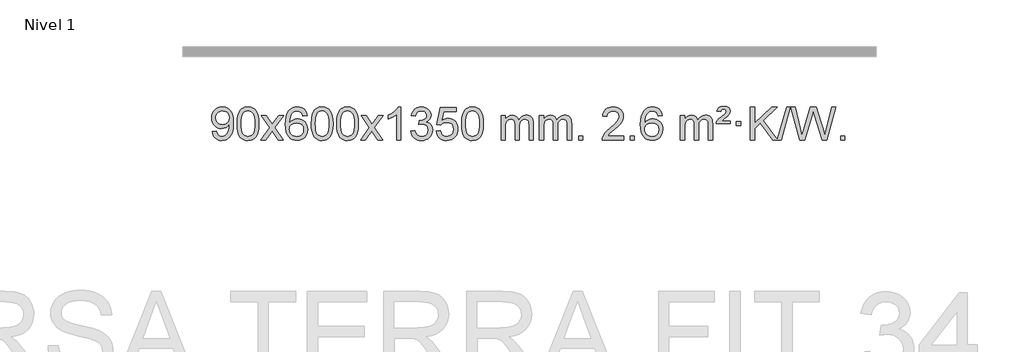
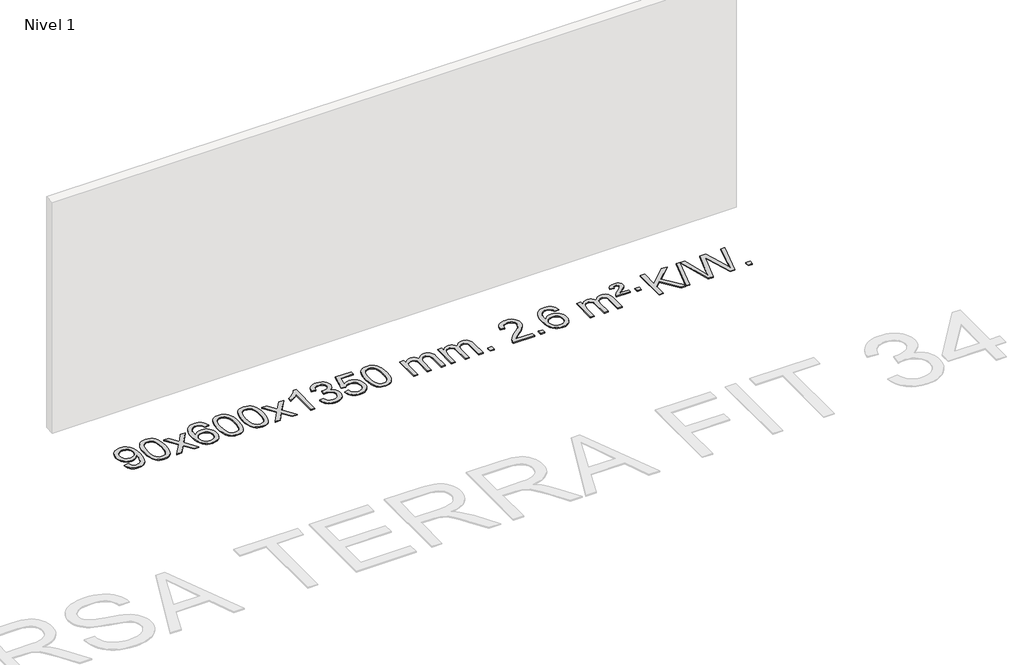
# One storey, part 6 of 10: 1 proxy.
"""IFC4 building model written with IfcOpenShell, lengths in millimetres."""

import ifcopenshell
import ifcopenshell.guid

model = None  # the IFC model being written
_history = None  # IfcOwnerHistory: only IFC2X3 demands one
_inside = {}  # id of a spatial element -> (the spatial element, [elements in it])
_under = {}  # id of a project, library or spatial element -> (it, [spatial elements below it])
_declared = {}  # id of a project -> (the project, [libraries it declares])
_typed = {}  # id of a type object -> (the type object, [elements of that type])
_made_of = {}  # id of a material, layer set ... -> (it, [elements and type objects made of it])


def new_model(schema):
    """Start an empty IFC model of exactly this schema.

    Asked for "IFC4X3", IfcOpenShell would pick the latest addendum, in which some entities
    have other attributes; the version numbers below select the first issue.
    IFC2X3 requires an IfcOwnerHistory on every rooted entity: one is made here for all.
    """
    global model, _history
    if schema == "IFC4X3":
        model = ifcopenshell.file(schema_version=(4, 3, 0, 0))
    else:
        model = ifcopenshell.file(schema=schema)
    _inside.clear()
    _under.clear()
    _declared.clear()
    _typed.clear()
    _made_of.clear()
    _history = None
    if model.schema == "IFC2X3":
        org = make("IfcOrganization", Name="unknown")
        user = make(
            "IfcPersonAndOrganization",
            ThePerson=make("IfcPerson", FamilyName="unknown"),
            TheOrganization=org,
        )
        app = make(
            "IfcApplication",
            ApplicationDeveloper=org,
            Version="unknown",
            ApplicationFullName="unknown",
            ApplicationIdentifier="unknown",
        )
        _history = make(
            "IfcOwnerHistory",
            OwningUser=user,
            OwningApplication=app,
            ChangeAction="ADDED",
            CreationDate=0,
        )
    return model


def make(cls, **values):
    """One entity of the class cls with the attributes given. An attribute that is None is left unset."""
    return model.create_entity(
        cls, **{name: value for name, value in values.items() if value is not None}
    )


def rooted(cls, **values):
    """An entity with a GlobalId (a new one), such as an element, a storey or a relation."""
    return make(cls, GlobalId=ifcopenshell.guid.new(), OwnerHistory=_history, **values)


def si_unit(unit_type, name, prefix=None):
    """IfcSIUnit, for example si_unit("LENGTHUNIT", "METRE", prefix="MILLI")."""
    return make("IfcSIUnit", UnitType=unit_type, Prefix=prefix, Name=name)


def assignment(units):
    """IfcUnitAssignment: the units of a project."""
    return None if units is None else make("IfcUnitAssignment", Units=units)


def point(xyz):
    """IfcCartesianPoint."""
    return None if xyz is None else make("IfcCartesianPoint", Coordinates=xyz)


def direction(xyz):
    """IfcDirection."""
    return None if xyz is None else make("IfcDirection", DirectionRatios=xyz)


def frame(location, z_axis=None, x_axis=None):
    """IfcAxis2Placement3D, a coordinate frame: its origin and axes. An axis left out is left unset."""
    return make(
        "IfcAxis2Placement3D",
        Location=point(location),
        Axis=direction(z_axis),
        RefDirection=direction(x_axis),
    )


def origin():
    """The frame at (0, 0, 0) with its axes left unset."""
    return frame((0.0, 0.0, 0.0))


def origin_with_axes():
    """The frame at (0, 0, 0) with the z axis (0, 0, 1) and the x axis (1, 0, 0) written out."""
    return frame((0.0, 0.0, 0.0), z_axis=(0.0, 0.0, 1.0), x_axis=(1.0, 0.0, 0.0))


def place(relative_to, where):
    """IfcLocalPlacement: puts the frame where relative to a parent placement (None: the world)."""
    return make(
        "IfcLocalPlacement", PlacementRelTo=relative_to, RelativePlacement=where
    )


def context(
    kind, dimensions, precision=None, world=None, true_north=None, identifier=None
):
    """IfcGeometricRepresentationContext, for example the 3D "Model" context."""
    return make(
        "IfcGeometricRepresentationContext",
        ContextIdentifier=identifier,
        ContextType=kind,
        CoordinateSpaceDimension=dimensions,
        Precision=precision,
        WorldCoordinateSystem=world,
        TrueNorth=true_north,
    )


def project(units=None, contexts=None):
    """IfcProject with its units and contexts."""
    return rooted(
        "IfcProject",
        Name="project",
        RepresentationContexts=contexts,
        UnitsInContext=assignment(units),
    )


def spatial(cls, under=None, at=None, **own):
    """A site, building, storey or space (cls), placed at a placement, below another one or the project."""
    s = rooted(cls, ObjectPlacement=at, **own)
    if under is not None:
        _under.setdefault(under.id(), (under, []))[1].append(s)
    return s


def polyline(points):
    """IfcPolyline through the points."""
    return make("IfcPolyline", Points=[point(p) for p in points])


def outline(outer, holes=None, kind="AREA"):
    """IfcArbitraryClosedProfileDef: a profile drawn as a closed curve; with holes, ...WithVoids."""
    if holes is None:
        return make("IfcArbitraryClosedProfileDef", ProfileType=kind, OuterCurve=outer)
    return make(
        "IfcArbitraryProfileDefWithVoids",
        ProfileType=kind,
        OuterCurve=outer,
        InnerCurves=holes,
    )


def extrude(swept, where, along, depth):
    """IfcExtrudedAreaSolid: the profile swept, set in the frame where, extruded along a direction by depth."""
    return make(
        "IfcExtrudedAreaSolid",
        SweptArea=swept,
        Position=where,
        ExtrudedDirection=direction(along),
        Depth=depth,
    )


def shape(context_of_items, identifier, shape_type, items):
    """IfcShapeRepresentation: the items that make up one representation, for example the "Body"."""
    return make(
        "IfcShapeRepresentation",
        ContextOfItems=context_of_items,
        RepresentationIdentifier=identifier,
        RepresentationType=shape_type,
        Items=items,
    )


def made_of(thing, what):
    """Note that an element or type object is made of a material, layer set ...; save() writes the relation."""
    if what is not None:
        _made_of.setdefault(what.id(), (what, []))[1].append(thing)
    return thing


def element(
    cls,
    number,
    at=None,
    inside=None,
    cuts=None,
    type_object=None,
    material=None,
    context=None,
    identifier="Body",
    shape_type=None,
    held_by="IfcProductDefinitionShape",
    body=None,
    shapes=None,
    **own,
):
    """One element of the class cls, such as IfcWall. Its Tag is "e" and its number.

    at: its placement. inside: the storey or other place that contains it. cuts: it is an
    opening in that element (IfcRelVoidsElement). A single representation is given by context,
    identifier, shape_type and body (its items); several are given by shapes. held_by: the class
    of the entity that holds the representations. save() writes the other relations.
    """
    e = rooted(cls, Tag="e%d" % number, ObjectPlacement=at, **own)
    if body is not None:
        shapes = [shape(context, identifier, shape_type, body)]
    if shapes is not None:
        e.Representation = make(held_by, Representations=shapes)
    if inside is not None:
        _inside.setdefault(inside.id(), (inside, []))[1].append(e)
    if cuts is not None:
        rooted(
            "IfcRelVoidsElement", RelatingBuildingElement=cuts, RelatedOpeningElement=e
        )
    if type_object is not None:
        _typed.setdefault(type_object.id(), (type_object, []))[1].append(e)
    return made_of(e, material)


def aggregate(whole, parts):
    """IfcRelAggregates: a whole, such as a stair, and the parts it consists of."""
    return rooted("IfcRelAggregates", RelatingObject=whole, RelatedObjects=parts)


def save(model, path):
    """Write the relations noted so far, then the file.

    IfcRelAggregates (storeys below a building ...), IfcRelContainedInSpatialStructure (elements
    in a storey), IfcRelDefinesByType, IfcRelAssociatesMaterial and IfcRelDeclares: one each for
    every whole, place, type object, material and project.
    """
    for whole, parts in _under.values():
        aggregate(whole, parts)
    for where, things in _inside.values():
        rooted(
            "IfcRelContainedInSpatialStructure",
            RelatedElements=things,
            RelatingStructure=where,
        )
    for kind, things in _typed.values():
        rooted("IfcRelDefinesByType", RelatedObjects=things, RelatingType=kind)
    for what, things in _made_of.values():
        rooted("IfcRelAssociatesMaterial", RelatedObjects=things, RelatingMaterial=what)
    for by, libraries in _declared.values():
        rooted("IfcRelDeclares", RelatingContext=by, RelatedDefinitions=libraries)
    model.write(path)


model = new_model("IFC4")

# Units and contexts
model_context = context("Model", 3, world=origin())
ifc_project = project(units=[si_unit("LENGTHUNIT", "METRE", prefix="MILLI")], contexts=[model_context])

# Site, building, storey
site = spatial("IfcSite", under=ifc_project)
building = spatial("IfcBuilding", under=site)
storey = spatial("IfcBuildingStorey", under=building, Name="Nivel 1", Elevation=0.0)

# Proxy
placement = place(None, origin())
element("IfcBuildingElementProxy", 1, Name="Texto de modelo 1", ObjectType="Texto de modelo 1", at=placement, inside=storey, context=model_context, shape_type="SweptSolid", body=[
    extrude(outline(polyline([(-14119.8718615, 2901.8394533), (-14069.6437065, 2908.1179727), (-14061.0597933, 2879.607118), (-14047.0802774, 2860.1952114), (-14028.0485156, 2849.048387), (-14004.3078641, 2845.3327788), (-13983.0074966, 2847.7240118), (-13963.6446409, 2854.8977107), (-13947.555935, 2866.0690606), (-13936.0780168, 2880.4532466), (-13919.6459543, 2924.1085767), (-13914.2013008, 2952.5090667), (-13912.3864163, 2982.3810848), (-13912.6807219, 2992.1912713), (-13930.0815402, 2970.9522174), (-13952.8534357, 2954.1277475), (-13979.3532021, 2943.1648641), (-14007.9376331, 2939.5105696), (-14031.7978462, 2941.742387), (-14053.7389415, 2948.4378393), (-14073.7609191, 2959.5969265), (-14091.863779, 2975.2196486), (-14106.8641673, 2994.4905338), (-14117.5787304, 3016.5941103), (-14124.0074683, 3041.5303782), (-14126.1503809, 3069.2993375), (-14123.9032351, 3097.9941331), (-14117.1617975, 3123.7458728), (-14105.9260682, 3146.5545565), (-14090.1960473, 3166.4201842), (-14071.0815119, 3182.5150215), (-14049.6922396, 3194.0113338), (-14026.0282303, 3200.9091213), (-14000.0894839, 3203.2083837), (-13962.6268341, 3197.9599339), (-13928.5241731, 3182.2145845), (-13900.0010558, 3156.7571505), (-13879.2770367, 3122.3724467), (-13866.6586843, 3074.8420929), (-13862.4525668, 3009.9477089), (-13866.6464215, 2941.1415131), (-13879.2279858, 2887.9580393), (-13900.0868949, 2847.9937919), (-13913.5789671, 2832.0675672), (-13929.1127843, 2818.8452752), (-13946.3756469, 2808.4587402), (-13965.0548552, 2801.0397866), (-14006.6623089, 2795.1046237), (-14029.2196066, 2796.8551289), (-14049.6064005, 2802.1066444), (-14067.8226906, 2810.8591702), (-14083.868477, 2823.1127063), (-14097.3390893, 2838.536159), (-14107.8298576, 2856.7984343), (-14115.3407816, 2877.8995324), (-14119.8718615, 2901.8394533)]), holes=[polyline([(-13912.6807219, 3070.4765599), (-13918.1008499, 3104.5179072), (-13924.87601, 3118.5955248), (-13934.3612341, 3130.7111052), (-13946.0905384, 3140.4538467), (-13959.597939, 3147.4129478), (-13991.9470291, 3152.9802287), (-14009.5563139, 3151.4811095), (-14025.4978671, 3146.9837521), (-14039.7716885, 3139.4881565), (-14052.3777782, 3128.9943226), (-14062.678474, 3116.1153871), (-14070.0361139, 3101.4644866), (-14074.4506979, 3085.0416212), (-14075.9222259, 3066.8467909), (-14070.354945, 3035.8098132), (-14063.3958439, 3022.6917544), (-14053.6531024, 3011.1739822), (-14041.5313907, 3001.7960571), (-14027.4353789, 2995.0975391), (-13993.3204552, 2989.7387247), (-13961.2288825, 2995.0975391), (-13935.3913037, 3011.1739822), (-13925.4554241, 3022.9186149), (-13918.3583673, 3036.7172554), (-13912.6807219, 3070.4765599)])]), origin_with_axes(), (0.0, 0.0, 1.0), 10.0),
    extrude(outline(polyline([(-13818.5029311, 2999.0584019), (-13814.8118484, 3063.3764374), (-13803.7386004, 3114.6714502), (-13785.3935515, 3153.7282554), (-13773.5354886, 3168.9616357), (-13759.8870665, 3181.3316677), (-13744.4023002, 3190.902731), (-13727.0352044, 3197.7392047), (-13686.654024, 3203.2083837), (-13655.7028855, 3199.9710222), (-13627.9891085, 3190.2589375), (-13604.8125428, 3174.4522744), (-13587.4730381, 3152.9311777), (-13574.3764391, 3125.8795883), (-13563.9285904, 3093.4814473), (-13557.0859853, 3052.3399775), (-13554.805117, 2999.0584019), (-13558.4594114, 2935.1082484), (-13569.4222949, 2883.9358628), (-13587.6569791, 2844.8422695), (-13599.487451, 2829.562904), (-13613.1266759, 2817.1284925), (-13628.6298363, 2807.4930499), (-13646.0521145, 2800.6105909), (-13686.654024, 2795.1046237), (-13714.3187501, 2797.4958567), (-13738.8442164, 2804.6695556), (-13760.2304231, 2816.6257205), (-13778.47737, 2833.3643512), (-13795.988553, 2863.6226453), (-13808.4965408, 2901.3244185), (-13816.0013335, 2946.4696707), (-13818.5029311, 2999.0584019)]), holes=[polyline([(-13768.274776, 2999.1565037), (-13766.803248, 2955.4919766), (-13762.3886641, 2920.1477139), (-13755.0310242, 2893.1237157), (-13744.7303283, 2874.4199819), (-13732.2713914, 2861.6943306), (-13718.4390284, 2852.6045796), (-13703.2332393, 2847.150729), (-13686.654024, 2845.3327788), (-13670.0748088, 2847.1568604), (-13654.8690196, 2852.6291051), (-13641.0366566, 2861.7495129), (-13628.5777197, 2874.5180838), (-13618.2770239, 2893.2524744), (-13610.919384, 2920.2703412), (-13606.5048, 2955.5716844), (-13605.033272, 2999.1565037), (-13606.4557491, 3041.6652683), (-13610.7231802, 3076.3871973), (-13617.8355655, 3103.3222907), (-13627.7929048, 3122.4705485), (-13640.0433752, 3135.8185336), (-13654.0351538, 3145.3528086), (-13669.7682404, 3151.0733736), (-13687.2426352, 3152.9802287), (-13703.7360113, 3151.3002342), (-13718.6842831, 3146.2602509), (-13732.0874504, 3137.8602787), (-13743.9455134, 3126.1003175), (-13754.5895658, 3105.2536711), (-13762.1924604, 3077.1474867), (-13766.7541971, 3041.7817642), (-13768.274776, 2999.1565037)])]), origin_with_axes(), (0.0, 0.0, 1.0), 10.0),
    extrude(outline(polyline([(-13529.6910394, 2801.3831431), (-13422.3675987, 2949.7131636), (-13523.41252, 3096.4735542), (-13462.981771, 3096.4735542), (-13414.2251439, 3025.8402111), (-13391.4655111, 2992.4855769), (-13371.7470362, 3019.7578955), (-13316.2213804, 3096.4735542), (-13255.7906313, 3096.4735542), (-13361.9368496, 2949.7131636), (-13259.7147059, 2801.3831431), (-13320.145455, 2801.3831431), (-13381.6553246, 2890.5577388), (-13392.9370391, 2906.8426484), (-13469.2602903, 2801.3831431), (-13529.6910394, 2801.3831431)])), origin_with_axes(), (0.0, 0.0, 1.0), 10.0),
    extrude(outline(polyline([(-12970.9028142, 3096.4735542), (-13021.1309693, 3090.1950348), (-13029.2243732, 3115.0883832), (-13040.1627312, 3132.0845313), (-13062.9468894, 3147.7563043), (-13090.4889881, 3152.9802287), (-13113.8372321, 3149.9390708), (-13135.8120499, 3140.8155973), (-13154.6843963, 3121.5998945), (-13170.0986519, 3095.149179), (-13180.5097123, 3057.7355801), (-13184.3724733, 3005.6312269), (-13164.2248027, 3029.1388863), (-13140.0794811, 3045.7058389), (-13113.2854091, 3055.5282881), (-13085.1914874, 3058.8024379), (-13061.0584285, 3056.5644891), (-13038.7893051, 3049.8506427), (-13018.3841171, 3038.6608987), (-12999.8428645, 3022.995257), (-12984.4347403, 3003.7856855), (-12973.4289372, 2981.9641518), (-12966.8254554, 2957.530656), (-12964.6242948, 2930.485198), (-12968.7690986, 2894.5186016), (-12981.2035101, 2861.1762301), (-13000.8974596, 2832.8983674), (-13026.8208775, 2812.1252974), (-13057.7965415, 2799.3597922), (-13092.6472291, 2795.1046237), (-13122.5897579, 2797.9250524), (-13149.6321502, 2806.3863383), (-13173.7744061, 2820.4884814), (-13195.0165257, 2840.2314818), (-13212.3345706, 2866.4492053), (-13224.7046027, 2899.9755178), (-13232.1266219, 2940.8104193), (-13234.6006284, 2988.9539097), (-13231.8537761, 3042.9283298), (-13223.6132194, 3088.993287), (-13209.8789583, 3127.1487812), (-13190.6509927, 3157.3948126), (-13169.8104776, 3177.43825), (-13145.6467619, 3191.7549909), (-13118.1598455, 3200.3450355), (-13087.3497284, 3203.2083837), (-13064.2160823, 3201.4364188), (-13043.2774654, 3196.120524), (-13024.5338777, 3187.2606992), (-13007.9853193, 3174.8569446), (-12994.0793799, 3159.3261931), (-12983.2636492, 3141.0853775), (-12975.5381274, 3120.1344979), (-12970.9028142, 3096.4735542)]), holes=[polyline([(-13184.3724733, 2931.2700129), (-13181.4662055, 2909.0131522), (-13172.7474022, 2887.7618356), (-13159.2093448, 2869.4903632), (-13141.8453146, 2856.1730349), (-13120.8883036, 2848.0428429), (-13096.5713038, 2845.3327788), (-13063.425136, 2850.9491106), (-13049.5099995, 2857.9695254), (-13037.366828, 2867.798106), (-13027.5167876, 2880.0363137), (-13020.4810444, 2894.2856096), (-13014.8524499, 2928.8174663), (-13020.407468, 2961.963634), (-13027.3512407, 2975.5844649), (-13037.0725224, 2987.2371271), (-13049.2524821, 2996.5721327), (-13063.5722888, 3003.2399939), (-13098.6314429, 3008.5742828), (-13131.7285598, 3003.2399939), (-13159.4055485, 2987.2371271), (-13170.3285781, 2975.7377491), (-13178.1307421, 2962.5767707), (-13182.8120405, 2947.754192), (-13184.3724733, 2931.2700129)])]), origin_with_axes(), (0.0, 0.0, 1.0), 10.0),
    extrude(outline(polyline([(-12920.6746591, 2999.0584019), (-12916.9835765, 3063.3764374), (-12905.9103284, 3114.6714502), (-12887.5652796, 3153.7282554), (-12875.7072166, 3168.9616357), (-12862.0587946, 3181.3316677), (-12846.5740283, 3190.902731), (-12829.2069324, 3197.7392047), (-12788.8257521, 3203.2083837), (-12757.8746135, 3199.9710222), (-12730.1608366, 3190.2589375), (-12706.9842709, 3174.4522744), (-12689.6447662, 3152.9311777), (-12676.5481671, 3125.8795883), (-12666.1003185, 3093.4814473), (-12659.2577134, 3052.3399775), (-12656.976845, 2999.0584019), (-12660.6311395, 2935.1082484), (-12671.5940229, 2883.9358628), (-12689.8287072, 2844.8422695), (-12701.659179, 2829.562904), (-12715.298404, 2817.1284925), (-12730.8015644, 2807.4930499), (-12748.2238425, 2800.6105909), (-12788.8257521, 2795.1046237), (-12816.4904781, 2797.4958567), (-12841.0159444, 2804.6695556), (-12862.4021511, 2816.6257205), (-12880.6490981, 2833.3643512), (-12898.160281, 2863.6226453), (-12910.6682689, 2901.3244185), (-12918.1730616, 2946.4696707), (-12920.6746591, 2999.0584019)]), holes=[polyline([(-12870.4465041, 2999.1565037), (-12868.9749761, 2955.4919766), (-12864.5603921, 2920.1477139), (-12857.2027522, 2893.1237157), (-12846.9020564, 2874.4199819), (-12834.4431195, 2861.6943306), (-12820.6107564, 2852.6045796), (-12805.4049673, 2847.150729), (-12788.8257521, 2845.3327788), (-12772.2465368, 2847.1568604), (-12757.0407477, 2852.6291051), (-12743.2083847, 2861.7495129), (-12730.7494478, 2874.5180838), (-12720.4487519, 2893.2524744), (-12713.091112, 2920.2703412), (-12708.676528, 2955.5716844), (-12707.2050001, 2999.1565037), (-12708.6274771, 3041.6652683), (-12712.8949083, 3076.3871973), (-12720.0072935, 3103.3222907), (-12729.9646328, 3122.4705485), (-12742.2151033, 3135.8185336), (-12756.2068818, 3145.3528086), (-12771.9399685, 3151.0733736), (-12789.4143633, 3152.9802287), (-12805.9077394, 3151.3002342), (-12820.8560111, 3146.2602509), (-12834.2591785, 3137.8602787), (-12846.1172414, 3126.1003175), (-12856.7612938, 3105.2536711), (-12864.3641884, 3077.1474867), (-12868.9259251, 3041.7817642), (-12870.4465041, 2999.1565037)])]), origin_with_axes(), (0.0, 0.0, 1.0), 10.0),
    extrude(outline(polyline([(-12613.0272093, 2999.0584019), (-12609.3361266, 3063.3764374), (-12598.2628786, 3114.6714502), (-12579.9178297, 3153.7282554), (-12568.0597668, 3168.9616357), (-12554.4113447, 3181.3316677), (-12538.9265784, 3190.902731), (-12521.5594826, 3197.7392047), (-12481.1783022, 3203.2083837), (-12450.2271637, 3199.9710222), (-12422.5133867, 3190.2589375), (-12399.336821, 3174.4522744), (-12381.9973163, 3152.9311777), (-12368.9007173, 3125.8795883), (-12358.4528686, 3093.4814473), (-12351.6102635, 3052.3399775), (-12349.3293952, 2999.0584019), (-12352.9836896, 2935.1082484), (-12363.9465731, 2883.9358628), (-12382.1812573, 2844.8422695), (-12394.0117292, 2829.562904), (-12407.6509541, 2817.1284925), (-12423.1541145, 2807.4930499), (-12440.5763927, 2800.6105909), (-12481.1783022, 2795.1046237), (-12508.8430283, 2797.4958567), (-12533.3684946, 2804.6695556), (-12554.7547013, 2816.6257205), (-12573.0016482, 2833.3643512), (-12590.5128312, 2863.6226453), (-12603.020819, 2901.3244185), (-12610.5256117, 2946.4696707), (-12613.0272093, 2999.0584019)]), holes=[polyline([(-12562.7990542, 2999.1565037), (-12561.3275262, 2955.4919766), (-12556.9129423, 2920.1477139), (-12549.5553024, 2893.1237157), (-12539.2546065, 2874.4199819), (-12526.7956696, 2861.6943306), (-12512.9633066, 2852.6045796), (-12497.7575175, 2847.150729), (-12481.1783022, 2845.3327788), (-12464.599087, 2847.1568604), (-12449.3932978, 2852.6291051), (-12435.5609348, 2861.7495129), (-12423.1019979, 2874.5180838), (-12412.8013021, 2893.2524744), (-12405.4436622, 2920.2703412), (-12401.0290782, 2955.5716844), (-12399.5575502, 2999.1565037), (-12400.9800273, 3041.6652683), (-12405.2474584, 3076.3871973), (-12412.3598437, 3103.3222907), (-12422.317183, 3122.4705485), (-12434.5676534, 3135.8185336), (-12448.559432, 3145.3528086), (-12464.2925187, 3151.0733736), (-12481.7669134, 3152.9802287), (-12498.2602895, 3151.3002342), (-12513.2085613, 3146.2602509), (-12526.6117286, 3137.8602787), (-12538.4697916, 3126.1003175), (-12549.113844, 3105.2536711), (-12556.7167386, 3077.1474867), (-12561.2784753, 3041.7817642), (-12562.7990542, 2999.1565037)])]), origin_with_axes(), (0.0, 0.0, 1.0), 10.0),
    extrude(outline(polyline([(-12324.2153176, 2801.3831431), (-12216.8918769, 2949.7131636), (-12317.9367982, 3096.4735542), (-12257.5060492, 3096.4735542), (-12208.7494221, 3025.8402111), (-12185.9897893, 2992.4855769), (-12166.2713144, 3019.7578955), (-12110.7456586, 3096.4735542), (-12050.3149095, 3096.4735542), (-12156.4611278, 2949.7131636), (-12054.2389841, 2801.3831431), (-12114.6697332, 2801.3831431), (-12176.1796028, 2890.5577388), (-12187.4613173, 2906.8426484), (-12263.7845685, 2801.3831431), (-12324.2153176, 2801.3831431)])), origin_with_axes(), (0.0, 0.0, 1.0), 10.0),
    extrude(outline(polyline([(-11834.4908056, 2801.3831431), (-11884.7189607, 2801.3831431), (-11884.7189607, 3114.5242974), (-11905.6882344, 3097.5649374), (-11932.2983654, 3080.6301029), (-11985.1752709, 3055.2707707), (-11985.1752709, 3102.7520736), (-11945.7260583, 3124.2118566), (-11911.5498209, 3149.7428671), (-11884.6085961, 3176.8925583), (-11866.8644212, 3203.2083837), (-11834.4908056, 3203.2083837), (-11834.4908056, 2801.3831431)])), origin_with_axes(), (0.0, 0.0, 1.0), 10.0),
    extrude(outline(polyline([(-11715.1989373, 2908.1179727), (-11664.9707823, 2914.396492), (-11653.7258559, 2882.8322169), (-11637.2570053, 2861.5195866), (-11614.7548899, 2849.3794808), (-11585.4101694, 2845.3327788), (-11550.9764147, 2850.9000597), (-11536.7025933, 2857.8591608), (-11524.3908092, 2867.6019023), (-11507.394661, 2892.5197761), (-11501.7292783, 2922.7351506), (-11507.3456101, 2951.4176835), (-11524.1946054, 2974.6800883), (-11549.7010904, 2990.0943439), (-11581.2898911, 2995.2324291), (-11616.5084608, 2989.7387247), (-11610.9166544, 3039.9668797), (-11602.8723015, 3039.3782685), (-11572.7795543, 3042.9835121), (-11545.8751177, 3053.7992428), (-11534.8018696, 3061.9784858), (-11526.8924067, 3072.0952406), (-11522.146729, 3084.1495074), (-11520.5648364, 3098.1412859), (-11525.1510986, 3119.8340609), (-11538.9098853, 3137.431083), (-11559.9036844, 3149.0929422), (-11586.1949844, 3152.9802287), (-11612.5353352, 3149.056154), (-11634.0686947, 3137.2839302), (-11649.7895186, 3117.6635571), (-11658.6922629, 3090.1950348), (-11708.920418, 3096.4735542), (-11702.966861, 3120.4533289), (-11694.1315618, 3141.5758868), (-11682.4145202, 3159.8412279), (-11667.8157364, 3175.2493521), (-11650.7950627, 3187.4814284), (-11631.8123518, 3196.2186258), (-11610.8676035, 3201.4609443), (-11587.9608179, 3203.2083837), (-11556.38428, 3199.7625557), (-11527.3829161, 3189.4250716), (-11502.9310261, 3173.1156365), (-11485.0029102, 3151.7539553), (-11474.0032386, 3127.1426499), (-11470.3366814, 3101.0843419), (-11473.8192976, 3076.8041302), (-11484.2671462, 3054.7802614), (-11501.5330745, 3036.0182797), (-11525.4699297, 3021.523729), (-11494.0282818, 3008.8195375), (-11470.7290888, 2987.1880762), (-11456.3081146, 2957.8065675), (-11451.5011232, 2921.8522338), (-11453.9046189, 2896.3702743), (-11461.115106, 2872.899403), (-11473.1325845, 2851.4396199), (-11489.9570544, 2831.9909251), (-11510.4542129, 2815.8531683), (-11533.4897572, 2804.3261991), (-11559.0636872, 2797.4100176), (-11587.176003, 2795.1046237), (-11612.5843862, 2797.0727924), (-11635.7364264, 2802.9772984), (-11656.6321237, 2812.8181418), (-11675.2714781, 2826.5953225), (-11690.9003316, 2843.4995002), (-11702.7645259, 2862.7213345), (-11710.8640612, 2884.2608253), (-11715.1989373, 2908.1179727)])), origin_with_axes(), (0.0, 0.0, 1.0), 10.0),
    extrude(outline(polyline([(-11407.5514875, 2908.1179727), (-11357.3233324, 2914.396492), (-11348.1017571, 2884.2424312), (-11332.0130512, 2862.6477581), (-11309.1307911, 2849.6615236), (-11279.5285532, 2845.3327788), (-11260.3986894, 2846.8380293), (-11243.5251686, 2851.3537808), (-11228.9079907, 2858.8800333), (-11216.5471556, 2869.4167868), (-11206.718575, 2882.4428751), (-11199.6981602, 2897.4371321), (-11194.0818284, 2933.3301521), (-11199.342541, 2967.1262447), (-11205.9184316, 2981.0444468), (-11215.1246786, 2992.9760862), (-11226.9919386, 3002.5471495), (-11241.5508686, 3009.3836232), (-11278.7437383, 3014.8528022), (-11303.1097891, 3012.6700357), (-11322.8405268, 3006.1217362), (-11338.5981389, 2996.0908204), (-11351.044813, 2983.4602053), (-11401.2729681, 2989.7387247), (-11357.3233324, 3196.9298643), (-11162.6892315, 3196.9298643), (-11162.6892315, 3146.7017093), (-11316.7091602, 3146.7017093), (-11338.1934687, 3036.0428051), (-11320.4676879, 3048.7469967), (-11302.3127114, 3057.8214192), (-11283.7285393, 3063.2660728), (-11264.7151715, 3065.0809573), (-11240.2540845, 3062.8307457), (-11217.7856917, 3056.0801111), (-11197.3099929, 3044.8290534), (-11178.8269884, 3029.0775727), (-11163.5261631, 3009.7882934), (-11152.5970021, 2987.9238402), (-11146.0395056, 2963.4842129), (-11143.8536734, 2936.4694118), (-11145.821842, 2910.447892), (-11151.7263481, 2886.2412567), (-11161.5671914, 2863.8495059), (-11175.3443722, 2843.2726396), (-11196.215544, 2822.1991327), (-11220.5693321, 2807.1466277), (-11248.4057364, 2798.1151247), (-11279.7247569, 2795.1046237), (-11305.6451092, 2797.0390699), (-11329.0577325, 2802.8424084), (-11349.9626268, 2812.5146392), (-11368.3597923, 2826.0557623), (-11383.666749, 2842.7913274), (-11395.3010171, 2862.0468841), (-11403.2625966, 2883.8224326), (-11407.5514875, 2908.1179727)])), origin_with_axes(), (0.0, 0.0, 1.0), 10.0),
    extrude(outline(polyline([(-11099.9040377, 2999.0584019), (-11096.212955, 3063.3764374), (-11085.1397069, 3114.6714502), (-11066.7946581, 3153.7282554), (-11054.9365951, 3168.9616357), (-11041.2881731, 3181.3316677), (-11025.8034068, 3190.902731), (-11008.4363109, 3197.7392047), (-10968.0551306, 3203.2083837), (-10937.1039921, 3199.9710222), (-10909.3902151, 3190.2589375), (-10886.2136494, 3174.4522744), (-10868.8741447, 3152.9311777), (-10855.7775457, 3125.8795883), (-10845.329697, 3093.4814473), (-10838.4870919, 3052.3399775), (-10836.2062235, 2999.0584019), (-10839.860518, 2935.1082484), (-10850.8234015, 2883.9358628), (-10869.0580857, 2844.8422695), (-10880.8885575, 2829.562904), (-10894.5277825, 2817.1284925), (-10910.0309429, 2807.4930499), (-10927.4532211, 2800.6105909), (-10968.0551306, 2795.1046237), (-10995.7198566, 2797.4958567), (-11020.245323, 2804.6695556), (-11041.6315296, 2816.6257205), (-11059.8784766, 2833.3643512), (-11077.3896596, 2863.6226453), (-11089.8976474, 2901.3244185), (-11097.4024401, 2946.4696707), (-11099.9040377, 2999.0584019)]), holes=[polyline([(-11049.6758826, 2999.1565037), (-11048.2043546, 2955.4919766), (-11043.7897707, 2920.1477139), (-11036.4321308, 2893.1237157), (-11026.1314349, 2874.4199819), (-11013.672498, 2861.6943306), (-10999.840135, 2852.6045796), (-10984.6343459, 2847.150729), (-10968.0551306, 2845.3327788), (-10951.4759154, 2847.1568604), (-10936.2701262, 2852.6291051), (-10922.4377632, 2861.7495129), (-10909.9788263, 2874.5180838), (-10899.6781304, 2893.2524744), (-10892.3204905, 2920.2703412), (-10887.9059066, 2955.5716844), (-10886.4343786, 2999.1565037), (-10887.8568557, 3041.6652683), (-10892.1242868, 3076.3871973), (-10899.236672, 3103.3222907), (-10909.1940114, 3122.4705485), (-10921.4444818, 3135.8185336), (-10935.4362604, 3145.3528086), (-10951.169347, 3151.0733736), (-10968.6437418, 3152.9802287), (-10985.1371179, 3151.3002342), (-11000.0853897, 3146.2602509), (-11013.488557, 3137.8602787), (-11025.34662, 3126.1003175), (-11035.9906724, 3105.2536711), (-11043.5935669, 3077.1474867), (-11048.1553037, 3041.7817642), (-11049.6758826, 2999.1565037)])]), origin_with_axes(), (0.0, 0.0, 1.0), 10.0),
    extrude(outline(polyline([(-10622.7365645, 2801.3831431), (-10622.7365645, 3096.4735542), (-10572.5084094, 3096.4735542), (-10572.5084094, 3047.9131308), (-10557.4007221, 3070.2190425), (-10537.9765528, 3087.6934372), (-10514.8980889, 3098.9874145), (-10488.8275182, 3102.7520736), (-10460.8930121, 3098.9138381), (-10438.5012613, 3087.3991316), (-10421.7748932, 3068.9682437), (-10410.8365352, 3044.3814637), (-10392.5282746, 3069.9186055), (-10371.64484, 3088.1594211), (-10348.1862315, 3099.1039105), (-10322.1524489, 3102.7520736), (-10302.0446322, 3101.2345603), (-10284.3954935, 3096.6820207), (-10269.2050328, 3089.0944545), (-10256.4732501, 3078.4718619), (-10246.4086118, 3064.6916155), (-10239.2195845, 3047.631088), (-10234.9061681, 3027.2902793), (-10233.4683626, 3003.6691895), (-10233.4683626, 2801.3831431), (-10283.6965177, 2801.3831431), (-10283.6965177, 2982.0867792), (-10284.8614774, 3007.139543), (-10288.3563563, 3024.0253266), (-10294.9046558, 3035.589084), (-10305.2298772, 3044.6757693), (-10318.5104172, 3050.5618812), (-10333.9246728, 3052.5239185), (-10361.1356777, 3047.4961979), (-10383.318962, 3032.4130361), (-10391.924335, 3020.8431474), (-10398.07103, 3006.2443635), (-10402.988386, 2967.9601105), (-10402.988386, 2801.3831431), (-10453.2165411, 2801.3831431), (-10453.2165411, 2987.6785855), (-10456.1228088, 3016.0790755), (-10464.8416121, 3036.3371107), (-10480.1822913, 3048.4772166), (-10502.9541868, 3052.5239185), (-10522.3047798, 3049.8261172), (-10540.1347938, 3041.7327133), (-10554.8500736, 3028.4399106), (-10564.8564639, 3010.1439127), (-10570.595423, 2984.760055), (-10572.5084094, 2950.2036729), (-10572.5084094, 2801.3831431), (-10622.7365645, 2801.3831431)])), origin_with_axes(), (0.0, 0.0, 1.0), 10.0),
    extrude(outline(polyline([(-10158.12613, 2801.3831431), (-10158.12613, 3096.4735542), (-10107.8979749, 3096.4735542), (-10107.8979749, 3047.9131308), (-10092.7902877, 3070.2190425), (-10073.3661183, 3087.6934372), (-10050.2876545, 3098.9874145), (-10024.2170838, 3102.7520736), (-9996.2825776, 3098.9138381), (-9973.8908268, 3087.3991316), (-9957.1644588, 3068.9682437), (-9946.2261008, 3044.3814637), (-9927.9178402, 3069.9186055), (-9907.0344056, 3088.1594211), (-9883.575797, 3099.1039105), (-9857.5420145, 3102.7520736), (-9837.4341978, 3101.2345603), (-9819.7850591, 3096.6820207), (-9804.5945983, 3089.0944545), (-9791.8628156, 3078.4718619), (-9781.7981774, 3064.6916155), (-9774.6091501, 3047.631088), (-9770.2957337, 3027.2902793), (-9768.8579282, 3003.6691895), (-9768.8579282, 2801.3831431), (-9819.0860833, 2801.3831431), (-9819.0860833, 2982.0867792), (-9820.2510429, 3007.139543), (-9823.7459219, 3024.0253266), (-9830.2942214, 3035.589084), (-9840.6194427, 3044.6757693), (-9853.8999827, 3050.5618812), (-9869.3142383, 3052.5239185), (-9896.5252433, 3047.4961979), (-9918.7085276, 3032.4130361), (-9927.3139006, 3020.8431474), (-9933.4605956, 3006.2443635), (-9938.3779516, 2967.9601105), (-9938.3779516, 2801.3831431), (-9988.6061066, 2801.3831431), (-9988.6061066, 2987.6785855), (-9991.5123744, 3016.0790755), (-10000.2311777, 3036.3371107), (-10015.5718569, 3048.4772166), (-10038.3437524, 3052.5239185), (-10057.6943453, 3049.8261172), (-10075.5243594, 3041.7327133), (-10090.2396392, 3028.4399106), (-10100.2460294, 3010.1439127), (-10105.9849886, 2984.760055), (-10107.8979749, 2950.2036729), (-10107.8979749, 2801.3831431), (-10158.12613, 2801.3831431)])), origin_with_axes(), (0.0, 0.0, 1.0), 10.0),
    extrude(outline(polyline([(-9680.9586568, 2801.3831431), (-9680.9586568, 2851.6112982), (-9630.7305017, 2851.6112982), (-9630.7305017, 2801.3831431), (-9680.9586568, 2801.3831431)])), origin_with_axes(), (0.0, 0.0, 1.0), 10.0),
    extrude(outline(polyline([(-9134.7274704, 2851.6112982), (-9134.7274704, 2801.3831431), (-9398.4252845, 2801.3831431), (-9397.3216385, 2819.0660044), (-9393.0296819, 2836.0131016), (-9380.6443214, 2863.0769537), (-9362.5200018, 2889.3314654), (-9336.3022783, 2916.8122505), (-9299.6367061, 2947.5549225), (-9245.4354255, 2995.698413), (-9212.9146571, 3031.2358137), (-9196.6542729, 3060.0777621), (-9191.2341448, 3088.1348956), (-9196.3477046, 3113.2857614), (-9211.6883838, 3134.1937214), (-9235.2696197, 3148.2836018), (-9265.1048495, 3152.9802287), (-9296.4361327, 3148.3939664), (-9320.7776581, 3134.6351798), (-9336.4862193, 3112.7829893), (-9341.9186101, 3083.9165154), (-9392.1467651, 3090.1950348), (-9387.8272174, 3116.1245841), (-9379.9698711, 3138.7799836), (-9368.5747263, 3158.1612334), (-9353.641783, 3174.2683334), (-9335.5143977, 3186.9296054), (-9314.5359269, 3195.9733712), (-9290.7063706, 3201.3996306), (-9264.0257289, 3203.2083837), (-9237.1059639, 3201.1972955), (-9213.147649, 3195.1640308), (-9192.1507841, 3185.1085896), (-9174.1153693, 3171.0309719), (-9159.6300158, 3153.97351), (-9149.2833346, 3134.9785364), (-9143.075326, 3114.0460508), (-9141.0059898, 3091.1760535), (-9143.2378072, 3067.1533592), (-9149.9332595, 3043.5475978), (-9161.815848, 3019.5371663), (-9179.6090738, 2994.3004614), (-9207.9727756, 2964.170926), (-9251.566792, 2925.4820028), (-9309.3487908, 2877.1668341), (-9332.0103217, 2851.6112982), (-9134.7274704, 2851.6112982)])), origin_with_axes(), (0.0, 0.0, 1.0), 10.0),
    extrude(outline(polyline([(-9059.3852378, 2801.3831431), (-9059.3852378, 2851.6112982), (-9009.1570827, 2851.6112982), (-9009.1570827, 2801.3831431), (-9059.3852378, 2801.3831431)])), origin_with_axes(), (0.0, 0.0, 1.0), 10.0),
    extrude(outline(polyline([(-8670.1170359, 3096.4735542), (-8720.345191, 3090.1950348), (-8728.4385949, 3115.0883832), (-8739.3769529, 3132.0845313), (-8762.1611111, 3147.7563043), (-8789.7032098, 3152.9802287), (-8813.0514538, 3149.9390708), (-8835.0262716, 3140.8155973), (-8853.898618, 3121.5998945), (-8869.3128736, 3095.149179), (-8879.723934, 3057.7355801), (-8883.586695, 3005.6312269), (-8863.4390244, 3029.1388863), (-8839.2937028, 3045.7058389), (-8812.4996308, 3055.5282881), (-8784.4057091, 3058.8024379), (-8760.2726502, 3056.5644891), (-8738.0035268, 3049.8506427), (-8717.5983388, 3038.6608987), (-8699.0570862, 3022.995257), (-8683.648962, 3003.7856855), (-8672.643159, 2981.9641518), (-8666.0396772, 2957.530656), (-8663.8385165, 2930.485198), (-8667.9833204, 2894.5186016), (-8680.4177318, 2861.1762301), (-8700.1116813, 2832.8983674), (-8726.0350992, 2812.1252974), (-8757.0107632, 2799.3597922), (-8791.8614509, 2795.1046237), (-8821.8039796, 2797.9250524), (-8848.8463719, 2806.3863383), (-8872.9886279, 2820.4884814), (-8894.2307474, 2840.2314818), (-8911.5487923, 2866.4492053), (-8923.9188244, 2899.9755178), (-8931.3408437, 2940.8104193), (-8933.8148501, 2988.9539097), (-8931.0679978, 3042.9283298), (-8922.8274412, 3088.993287), (-8909.09318, 3127.1487812), (-8889.8652144, 3157.3948126), (-8869.0246994, 3177.43825), (-8844.8609836, 3191.7549909), (-8817.3740672, 3200.3450355), (-8786.5639501, 3203.2083837), (-8763.430304, 3201.4364188), (-8742.4916871, 3196.120524), (-8723.7480995, 3187.2606992), (-8707.199541, 3174.8569446), (-8693.2936016, 3159.3261931), (-8682.477871, 3141.0853775), (-8674.7523491, 3120.1344979), (-8670.1170359, 3096.4735542)]), holes=[polyline([(-8883.586695, 2931.2700129), (-8880.6804272, 2909.0131522), (-8871.961624, 2887.7618356), (-8858.4235665, 2869.4903632), (-8841.0595364, 2856.1730349), (-8820.1025254, 2848.0428429), (-8795.7855255, 2845.3327788), (-8762.6393577, 2850.9491106), (-8748.7242213, 2857.9695254), (-8736.5810497, 2867.798106), (-8726.7310093, 2880.0363137), (-8719.6952661, 2894.2856096), (-8714.0666716, 2928.8174663), (-8719.6216897, 2961.963634), (-8726.5654624, 2975.5844649), (-8736.2867441, 2987.2371271), (-8748.4667039, 2996.5721327), (-8762.7865105, 3003.2399939), (-8797.8456647, 3008.5742828), (-8830.9427815, 3003.2399939), (-8858.6197703, 2987.2371271), (-8869.5427998, 2975.7377491), (-8877.3449638, 2962.5767707), (-8882.0262622, 2947.754192), (-8883.586695, 2931.2700129)])]), origin_with_axes(), (0.0, 0.0, 1.0), 10.0),
    extrude(outline(polyline([(-8450.3688575, 2801.3831431), (-8450.3688575, 3096.4735542), (-8400.1407024, 3096.4735542), (-8400.1407024, 3047.9131308), (-8385.0330151, 3070.2190425), (-8365.6088458, 3087.6934372), (-8342.530382, 3098.9874145), (-8316.4598112, 3102.7520736), (-8288.5253051, 3098.9138381), (-8266.1335543, 3087.3991316), (-8249.4071862, 3068.9682437), (-8238.4688283, 3044.3814637), (-8220.1605676, 3069.9186055), (-8199.277133, 3088.1594211), (-8175.8185245, 3099.1039105), (-8149.784742, 3102.7520736), (-8129.6769252, 3101.2345603), (-8112.0277865, 3096.6820207), (-8096.8373258, 3089.0944545), (-8084.1055431, 3078.4718619), (-8074.0409048, 3064.6916155), (-8066.8518775, 3047.631088), (-8062.5384611, 3027.2902793), (-8061.1006556, 3003.6691895), (-8061.1006556, 2801.3831431), (-8111.3288107, 2801.3831431), (-8111.3288107, 2982.0867792), (-8112.4937704, 3007.139543), (-8115.9886493, 3024.0253266), (-8122.5369488, 3035.589084), (-8132.8621702, 3044.6757693), (-8146.1427102, 3050.5618812), (-8161.5569658, 3052.5239185), (-8188.7679707, 3047.4961979), (-8210.951255, 3032.4130361), (-8219.556628, 3020.8431474), (-8225.703323, 3006.2443635), (-8230.620679, 2967.9601105), (-8230.620679, 2801.3831431), (-8280.8488341, 2801.3831431), (-8280.8488341, 2987.6785855), (-8283.7551019, 3016.0790755), (-8292.4739051, 3036.3371107), (-8307.8145843, 3048.4772166), (-8330.5864798, 3052.5239185), (-8349.9370728, 3049.8261172), (-8367.7670868, 3041.7327133), (-8382.4823666, 3028.4399106), (-8392.4887569, 3010.1439127), (-8398.227716, 2984.760055), (-8400.1407024, 2950.2036729), (-8400.1407024, 2801.3831431), (-8450.3688575, 2801.3831431)])), origin_with_axes(), (0.0, 0.0, 1.0), 10.0),
    extrude(outline(polyline([(-8017.15102, 3002.2957634), (-8013.3250472, 3018.1146892), (-8004.9863887, 3033.9826659), (-7983.4775547, 3059.121269), (-7951.520872, 3086.8595714), (-7907.3750326, 3124.2363821), (-7900.2381219, 3135.7633513), (-7897.8591517, 3147.5846261), (-7899.7476126, 3159.675681), (-7905.4129953, 3169.461342), (-7914.7817234, 3175.9360652), (-7927.7802206, 3178.0943062), (-7940.214632, 3176.4756254), (-7949.0683254, 3171.6195831), (-7955.4939976, 3162.1527531), (-7960.6443455, 3146.7017093), (-8010.8725006, 3152.9802287), (-8000.0322444, 3178.1924081), (-7983.4039783, 3195.752642), (-7959.6388014, 3206.0533378), (-7927.3878131, 3209.4869031), (-7891.6051577, 3205.354362), (-7866.8589622, 3192.9567388), (-7852.437988, 3174.6239527), (-7847.6309966, 3152.6859231), (-7851.7267495, 3129.7791375), (-7864.0140081, 3108.1476762), (-7884.5418234, 3088.3310994), (-7921.0111919, 3060.2739659), (-7946.6157788, 3033.6883604), (-7847.6309966, 3033.6883604), (-7847.6309966, 3002.2957634), (-8017.15102, 3002.2957634)])), origin_with_axes(), (0.0, 0.0, 1.0), 10.0),
    extrude(outline(polyline([(-7772.288764, 2977.1816859), (-7772.288764, 3027.409841), (-7722.0606089, 3027.409841), (-7722.0606089, 2977.1816859), (-7772.288764, 2977.1816859)])), origin_with_axes(), (0.0, 0.0, 1.0), 10.0),
    extrude(outline(polyline([(-7331.4189809, 2801.3831431), (-7484.8502984, 3004.061597), (-7552.5405855, 2939.5105696), (-7552.5405855, 2801.3831431), (-7602.7687406, 2801.3831431), (-7602.7687406, 3203.2083837), (-7552.5405855, 3203.2083837), (-7552.5405855, 3006.5141436), (-7346.5266682, 3203.2083837), (-7276.2857326, 3203.2083837), (-7449.2393213, 3038.0048424), (-7274.5857114, 2807.4276629), (-7163.2723837, 3203.2083837), (-7117.9493219, 3203.2083837), (-7230.9626708, 2801.3831431), (-7270.0072132, 2801.3831431), (-7276.2857326, 2801.3831431), (-7331.4189809, 2801.3831431)])), origin_with_axes(), (0.0, 0.0, 1.0), 10.0),
    extrude(outline(polyline([(-7003.464445, 2801.3831431), (-7113.0442286, 3203.2083837), (-7061.2464437, 3203.2083837), (-6997.6764349, 2939.1181621), (-6978.0560618, 2857.595512), (-6957.0622627, 2929.700383), (-6877.403548, 3203.2083837), (-6802.7480284, 3203.2083837), (-6744.8679278, 3004.9445138), (-6720.0726814, 2931.3681148), (-6701.8012089, 2857.595512), (-6682.7694471, 2936.7637174), (-6618.6108271, 3203.2083837), (-6566.8130422, 3203.2083837), (-6676.4909277, 2801.3831431), (-6730.152648, 2801.3831431), (-6826.4886798, 3111.3850377), (-6839.9286354, 3154.6479604), (-6855.0363227, 3102.5558698), (-6942.8374922, 2801.3831431), (-7003.464445, 2801.3831431)])), origin_with_axes(), (0.0, 0.0, 1.0), 10.0),
    extrude(outline(polyline([(-6510.3063677, 2801.3831431), (-6510.3063677, 2851.6112982), (-6460.0782126, 2851.6112982), (-6460.0782126, 2801.3831431), (-6510.3063677, 2801.3831431)])), origin_with_axes(), (0.0, 0.0, 1.0), 10.0),
])

save(model, "model.ifc")
